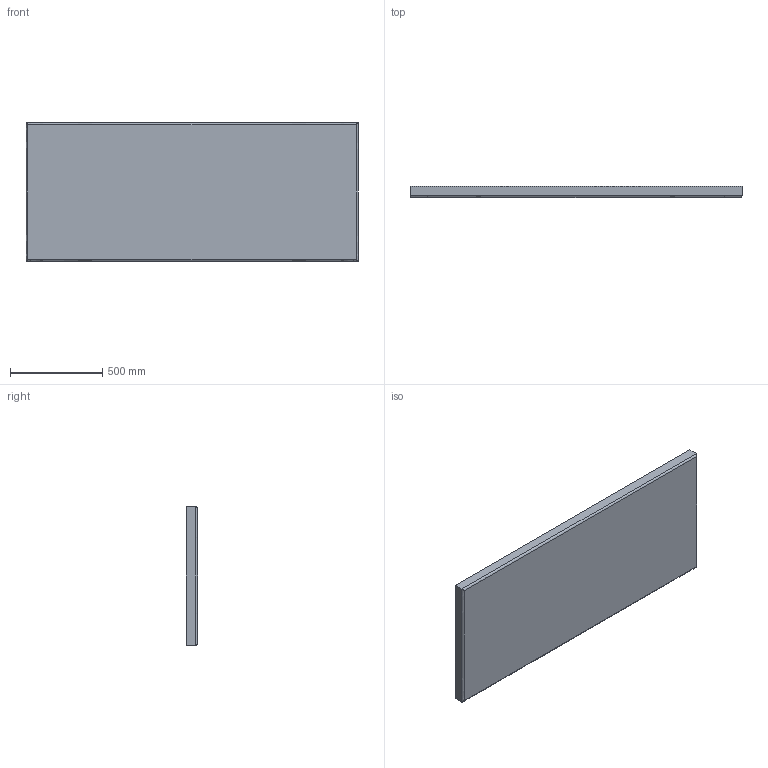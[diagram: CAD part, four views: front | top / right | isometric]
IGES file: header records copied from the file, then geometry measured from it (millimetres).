
Start section: SolidWorks IGES file using NURBS representation for surfaces
Global section: file name: D:\VICCARBE\PRODUCTOS\19-MASS\04-MODELADOS (PLANOS)\SOLIDWORKS\PIEZAS\Bases\01-IGES\VICCARBE_Mass_base_180.IGS; native system: SolidWorks 2009; preprocessor: SolidWorks 2009; author: RUBEN; date: 110908.162014; units: millimetre
Bounding box: 1800 x 60 x 750 mm (x, y, z)
Surface area: 2984054 mm2 (no closed solid volume)
Topology: 0 solids, 0 shells, 10 faces, 136 edges, 136 vertices
Faces by surface type: bspline 10
